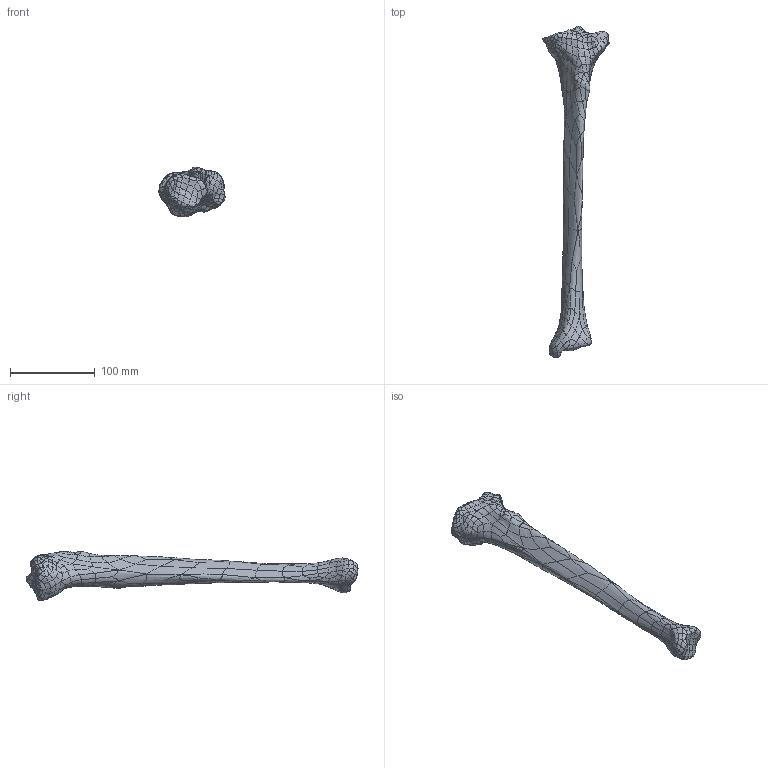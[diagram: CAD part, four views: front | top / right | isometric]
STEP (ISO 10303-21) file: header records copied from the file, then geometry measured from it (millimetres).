
FILE_DESCRIPTION (( 'STEP AP203' ), '1' );
FILE_NAME ('1117-4.STEP', '2025-05-26T18:14:29', ( '' ), ( '' ), 'SwSTEP 2.0', 'SolidWorks 2024', '' );
FILE_SCHEMA (( 'CONFIG_CONTROL_DESIGN' ));
Products named in the file (1): 1117-4
Bounding box: 77.83 x 391.04 x 58.44 mm (x, y, z)
Volume: 290559.4 mm3; surface area: 42672.6 mm2
Topology: 1 solids, 1 shells, 760 faces, 1691 edges, 944 vertices
Faces by surface type: bspline 759, plane 1
Entity records: 85381 total; most frequent: CARTESIAN_POINT 74524, ORIENTED_EDGE 3382, EDGE_CURVE 1691, B_SPLINE_CURVE_WITH_KNOTS 1691, VERTEX_POINT 944, EDGE_LOOP 771, FACE_OUTER_BOUND 760, ADVANCED_FACE 760
